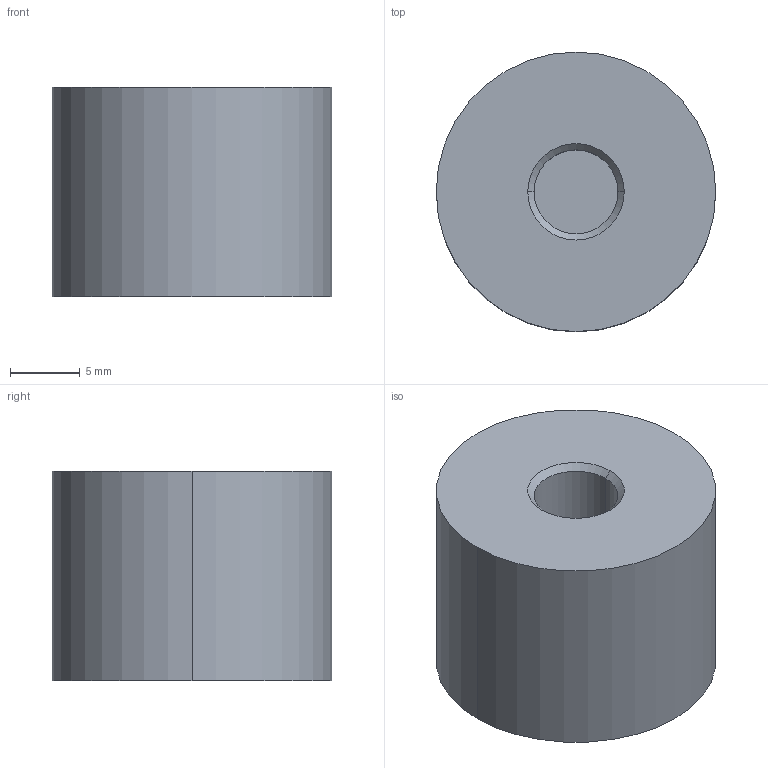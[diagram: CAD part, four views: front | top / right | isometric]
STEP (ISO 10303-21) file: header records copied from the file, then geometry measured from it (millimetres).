
FILE_DESCRIPTION (( 'STEP AP203' ), '1' );
FILE_NAME ('vd5-2015m6.STEP', '2021-10-21T08:04:01', ( '' ), ( '' ), 'SwSTEP 2.0', 'SolidWorks 2020', '' );
FILE_SCHEMA (( 'CONFIG_CONTROL_DESIGN' ));
Length unit declared in the file: millimetre
Products named in the file (1): vd5-2015m6
Bounding box: 20 x 20 x 15 mm (x, y, z)
Volume: 4540.7 mm3; surface area: 1679.2 mm2
Topology: 1 solids, 1 shells, 9 faces, 16 edges, 10 vertices
Faces by surface type: cylinder 4, plane 3, cone 2
Entity records: 301 total; most frequent: DIRECTION 46, CARTESIAN_POINT 36, ORIENTED_EDGE 32, AXIS2_PLACEMENT_3D 20, EDGE_CURVE 16, EDGE_LOOP 10, CIRCLE 10, VERTEX_POINT 10
